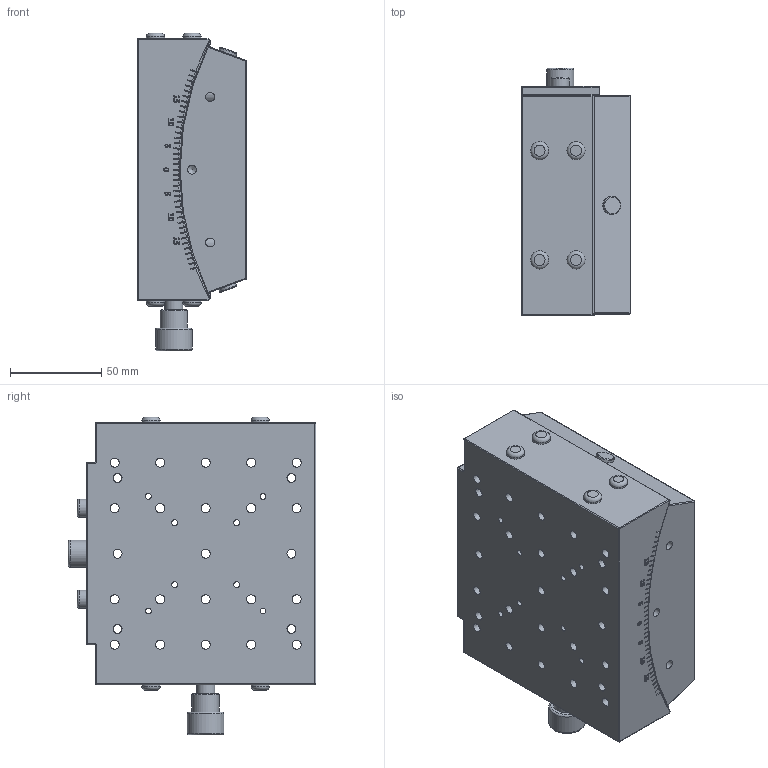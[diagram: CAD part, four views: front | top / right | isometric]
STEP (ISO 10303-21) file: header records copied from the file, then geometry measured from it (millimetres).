
FILE_DESCRIPTION(/* description */ (''),/* implementation_level */ '2;1');
FILE_NAME(/* name */ 'C:\Users\86186\Desktop\PT-SD312.stp',/* time_stamp */ '2021-03-12T08:59:32+08:00',/* author */ ('86186'),/* organization */ (''),/* preprocessor_version */ 'ST-DEVELOPER v18',/* originating_system */ 'Autodesk Inventor 2020',/* authorisation */ '');
FILE_SCHEMA (('AUTOMOTIVE_DESIGN { 1 0 10303 214 3 1 1 }'));
Length unit declared in the file: millimetre
Products named in the file (1): PT-SD311
Bounding box: 60 x 136 x 174.5 mm (x, y, z)
Volume: 979603.8 mm3; surface area: 102244.5 mm2
Topology: 1 solids, 1 shells, 542 faces, 1490 edges, 986 vertices
Faces by surface type: plane 277, cylinder 97, bspline 95, cone 39, torus 19, sphere 15
Full cylindrical faces by diameter (mm): 3.242 x8, 4.917 x30, 10 x19, 15 x2, 20 x1
Entity records: 18487 total; most frequent: CARTESIAN_POINT 4916, ORIENTED_EDGE 2974, DIRECTION 2542, EDGE_CURVE 1487, VERTEX_POINT 986, AXIS2_PLACEMENT_3D 878, LINE 786, VECTOR 786
